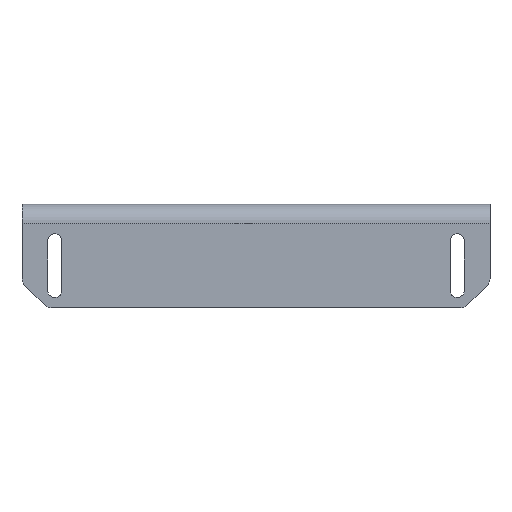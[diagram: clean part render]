
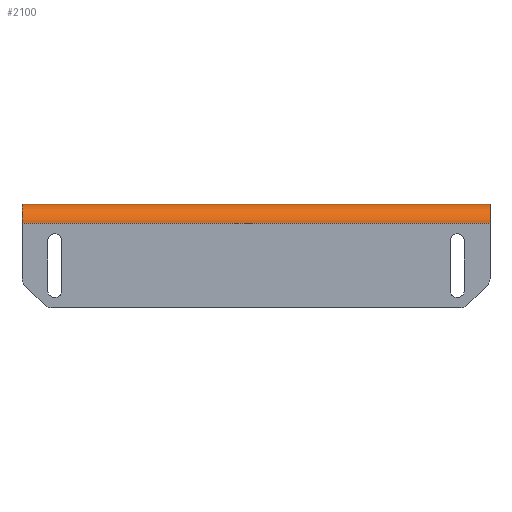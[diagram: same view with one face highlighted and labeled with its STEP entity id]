
A CAD part, top view. The second image highlights one B-rep face of the part: STEP entity #2100.
In plain terms, the highlighted cylindrical face has radius 6.18 mm (diameter 12.36 mm), a partial arc.
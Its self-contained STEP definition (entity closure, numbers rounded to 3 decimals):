
#14 = CIRCLE ( 'NONE', #310, 6.18 ) ;
#276 = AXIS2_PLACEMENT_3D ( 'NONE', #697, #1213, #500 ) ;
#285 = ORIENTED_EDGE ( 'NONE', *, *, #1524, .F. ) ;
#297 = EDGE_LOOP ( 'NONE', ( #285, #621, #779, #2171 ) ) ;
#310 = AXIS2_PLACEMENT_3D ( 'NONE', #947, #958, #1808 ) ;
#337 = CYLINDRICAL_SURFACE ( 'NONE', #276, 6.18 ) ;
#426 = DIRECTION ( 'NONE',  ( 1., 0., 0. ) ) ;
#460 = EDGE_CURVE ( 'NONE', #1099, #1002, #2259, .T. ) ;
#469 = CARTESIAN_POINT ( 'NONE',  ( 75., 0., 33.82 ) ) ;
#491 = AXIS2_PLACEMENT_3D ( 'NONE', #1355, #2028, #817 ) ;
#500 = DIRECTION ( 'NONE',  ( 0., 0., 1. ) ) ;
#535 = EDGE_CURVE ( 'NONE', #681, #1099, #1033, .T. ) ;
#558 = CARTESIAN_POINT ( 'NONE',  ( 75., -6.18, 40. ) ) ;
#606 = VECTOR ( 'NONE', #710, 1000. ) ;
#621 = ORIENTED_EDGE ( 'NONE', *, *, #460, .F. ) ;
#681 = VERTEX_POINT ( 'NONE', #558 ) ;
#697 = CARTESIAN_POINT ( 'NONE',  ( -75., -6.18, 33.82 ) ) ;
#709 = FACE_OUTER_BOUND ( 'NONE', #297, .T. ) ;
#710 = DIRECTION ( 'NONE',  ( -1., 0., 0. ) ) ;
#779 = ORIENTED_EDGE ( 'NONE', *, *, #535, .F. ) ;
#817 = DIRECTION ( 'NONE',  ( 0., 0., 1. ) ) ;
#925 = CARTESIAN_POINT ( 'NONE',  ( -75., 0., 33.82 ) ) ;
#947 = CARTESIAN_POINT ( 'NONE',  ( 75., -6.18, 33.82 ) ) ;
#958 = DIRECTION ( 'NONE',  ( 1., 0., 0. ) ) ;
#1002 = VERTEX_POINT ( 'NONE', #1273 ) ;
#1033 = LINE ( 'NONE', #1066, #606 ) ;
#1066 = CARTESIAN_POINT ( 'NONE',  ( 0., -6.18, 40. ) ) ;
#1099 = VERTEX_POINT ( 'NONE', #2165 ) ;
#1213 = DIRECTION ( 'NONE',  ( -1., 0., 0. ) ) ;
#1245 = VERTEX_POINT ( 'NONE', #469 ) ;
#1273 = CARTESIAN_POINT ( 'NONE',  ( -75., 0., 33.82 ) ) ;
#1355 = CARTESIAN_POINT ( 'NONE',  ( -75., -6.18, 33.82 ) ) ;
#1524 = EDGE_CURVE ( 'NONE', #1002, #1245, #2010, .T. ) ;
#1808 = DIRECTION ( 'NONE',  ( 0., 0., 1. ) ) ;
#1819 = VECTOR ( 'NONE', #426, 1000. ) ;
#1876 = EDGE_CURVE ( 'NONE', #1245, #681, #14, .T. ) ;
#2010 = LINE ( 'NONE', #925, #1819 ) ;
#2028 = DIRECTION ( 'NONE',  ( -1., 0., 0. ) ) ;
#2100 = ADVANCED_FACE ( 'NONE', ( #709 ), #337, .T. ) ;
#2165 = CARTESIAN_POINT ( 'NONE',  ( -75., -6.18, 40. ) ) ;
#2171 = ORIENTED_EDGE ( 'NONE', *, *, #1876, .F. ) ;
#2259 = CIRCLE ( 'NONE', #491, 6.18 ) ;
